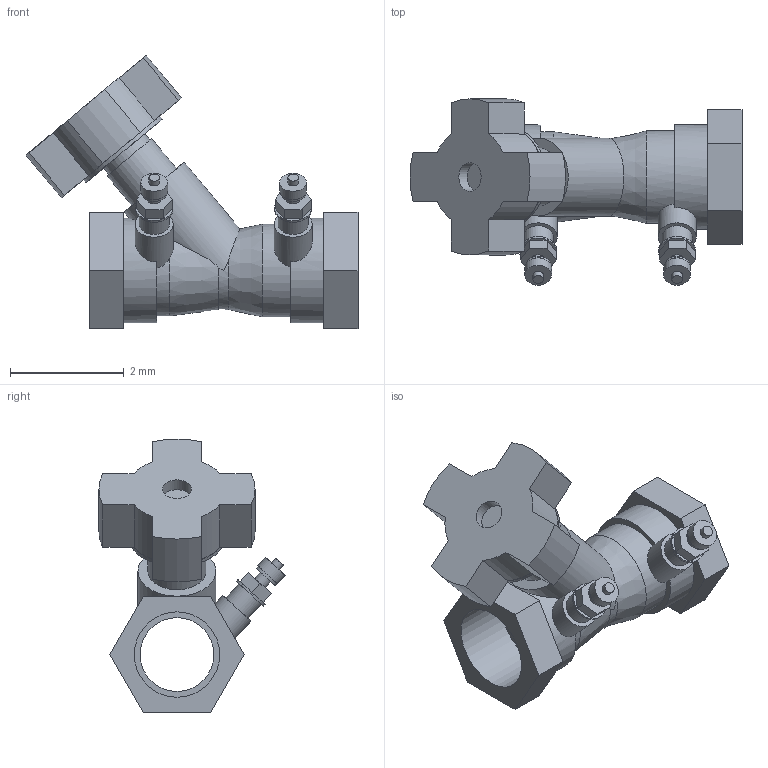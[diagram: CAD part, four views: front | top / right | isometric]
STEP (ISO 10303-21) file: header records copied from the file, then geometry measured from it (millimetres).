
FILE_DESCRIPTION(('Open CASCADE Model'),'2;1');
FILE_NAME('Open CASCADE Shape Model','2021-11-02T16:23:44',('Author'),( 'Open CASCADE'),'Open CASCADE STEP processor 7.3','Open CASCADE 7.3' ,'Unknown');
FILE_SCHEMA(('AUTOMOTIVE_DESIGN { 1 0 10303 214 1 1 1 1 }'));
Length unit declared in the file: millimetre
Products named in the file (1): Open CASCADE STEP translator 7.3 1
Bounding box: 5.83 x 3.27 x 4.81 mm (x, y, z)
Volume: 11.7 mm3; surface area: 84.5 mm2
Topology: 1 solids, 1 shells, 107 faces, 241 edges, 158 vertices
Faces by surface type: plane 70, cylinder 35, cone 2
Full cylindrical faces by diameter (mm): 0.185 x2, 0.25 x2, 0.45 x2, 0.47 x2, 0.508 x1, 0.53 x2, 0.65 x2, 0.67 x2, 0.94 x1, 1.02 x1, 1.296 x1, 1.37 x1, 1.5 x2, 1.63 x1, 1.745 x1, 1.838 x2
Entity records: 7463 total; most frequent: CARTESIAN_POINT 2549, DIRECTION 918, LINE 484, VECTOR 484, ORIENTED_EDGE 482, PCURVE 482, DEFINITIONAL_REPRESENTATION 482, EDGE_CURVE 241
